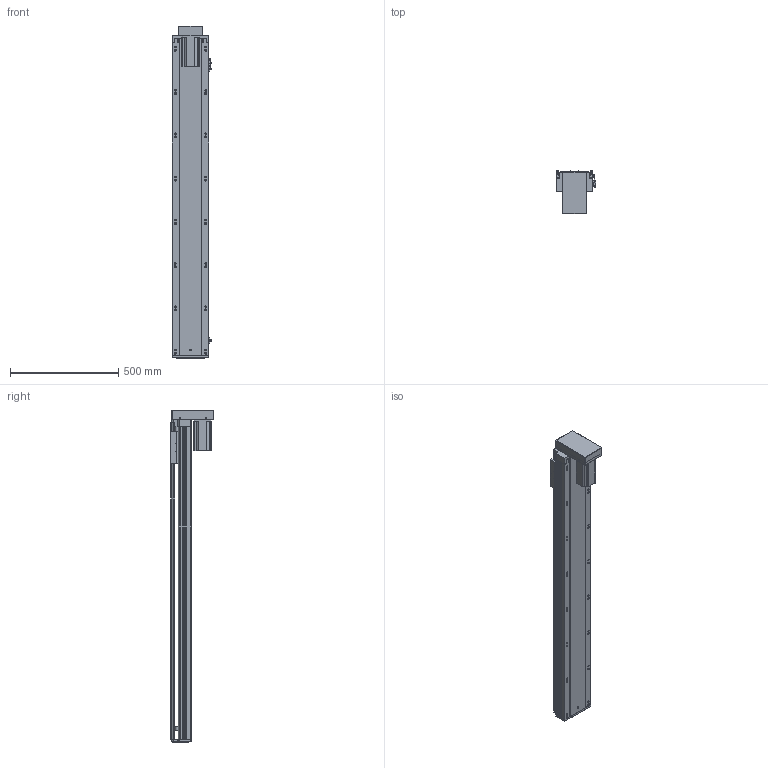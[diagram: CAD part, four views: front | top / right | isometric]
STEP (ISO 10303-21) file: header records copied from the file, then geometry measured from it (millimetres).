
FILE_DESCRIPTION (( 'STEP AP203' ), '1' );
FILE_NAME ('RY170-L2510-1400-BK.SLDASM_1200.step', '2021-03-12T09:26:06', ( '盈信电脑' ), ( '东莞市道滘镇水果街19号' ), 'SwSTEP 2.0', 'SolidWorks 2012', '' );
FILE_SCHEMA (( 'CONFIG_CONTROL_DESIGN' ));
Products named in the file (14): RY170-1400倰第菁釱-BK_1200; RY170-狟殏750W萇儂傷; RY170-L2510-1400-BK.SLDASM_1200; 滅袉蝶18-15; 怢湛750W萇儂ㄗ80遺ㄘ; RY170-狟殏萇儂假蚾啣; RY170转折电机端支撑座(7004); 滅袉蝶18-20; RY170狟殏萇儂欶; RY170外置感应片(200共用）; RY170綴裔啣; RY170-1400倰第裔啣-BK_1200; 覜茼ん672; 改造-RY170铝滑块25丝杆螺母
Assembly tree (15 placements, depth 3):
  RY170-L2510-1400-BK.SLDASM_1200
    RY170-1400倰第菁釱-BK_1200
    改造-RY170铝滑块25丝杆螺母
    RY170-1400倰第裔啣-BK_1200
    RY170綴裔啣
    覜茼ん672  x3
    RY170外置感应片(200共用）
    滅袉蝶18-20
    RY170转折电机端支撑座(7004)
    RY170-狟殏750W萇儂傷
      RY170-狟殏萇儂假蚾啣
      RY170狟殏萇儂欶
      怢湛750W萇儂ㄗ80遺ㄘ
    滅袉蝶18-15
Bounding box: 183.7 x 200.8 x 1534.5 mm (x, y, z)
Volume: 8156205 mm3; surface area: 2575799.9 mm2
Topology: 14 solids, 14 shells, 2226 faces, 6389 edges, 4086 vertices
Faces by surface type: plane 1084, cylinder 921, cone 202, bspline 19
Entity records: 72074 total; most frequent: CARTESIAN_POINT 17402, ORIENTED_EDGE 11466, DIRECTION 10611, EDGE_CURVE 5733, VERTEX_POINT 3766, AXIS2_PLACEMENT_3D 3545, LINE 3521, VECTOR 3521
